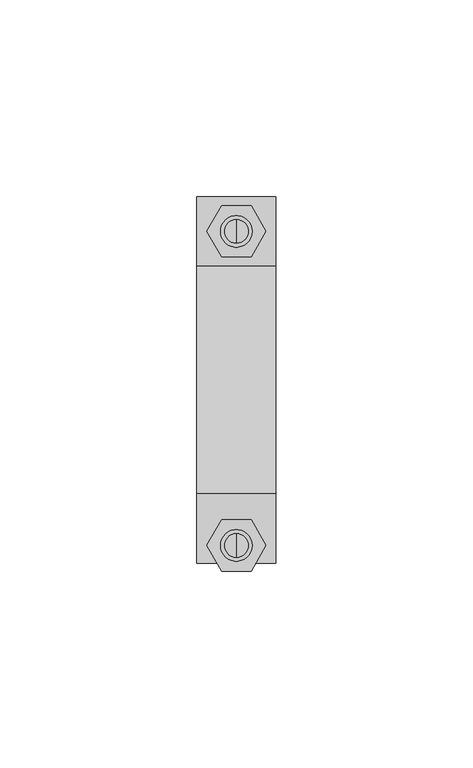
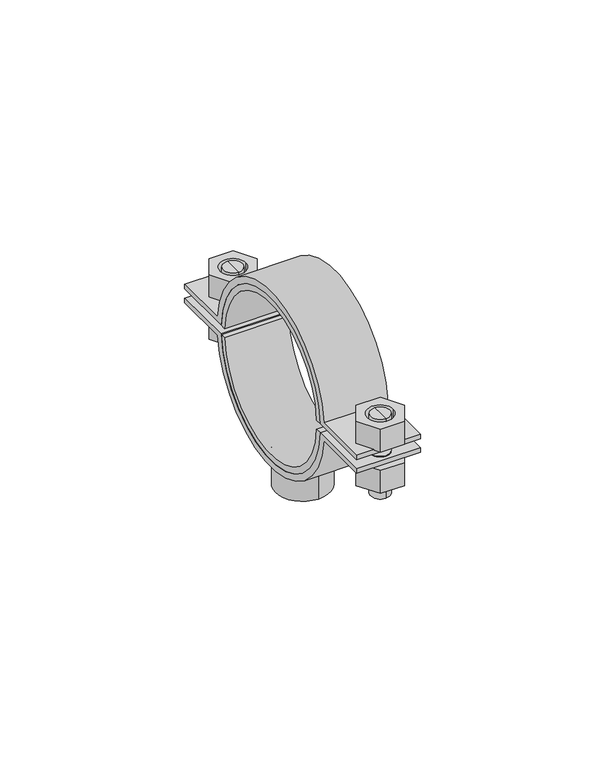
"""IFC4 building model written with IfcOpenShell, lengths in millimetres: valve geometry, Superfix DG2 Clamp Extra : Superfix DG2 Clamp Extra."""

from ifc_helpers import new_model, si_unit, point, frame, frame_2d, origin, origin_2d, place, context, project, spatial, polyline, circle_curve, trimmed, segment, composite_curve, outline, extrude, source, transform, mapped, element, save
from ifc_brep_helpers import plane_surface, cylinder_surface, advanced_brep


def valve_b01fb7c6(model_context):
    return source(origin(), model_context, "Body", "SolidModel", [
        advanced_brep(
        [(0.0, 40.75, 334.4), (0.0, 34.75, 334.4), (0.0, 34.75, 348.5), (0.0, 40.75, 348.5), (0.0, 37.75, 334.4)],
        [
            (0, 1, circle_curve(frame((0.0, 37.75, 334.4), z_axis=(0.0, 0.0, 1.0), x_axis=(0.0, 1.0, 0.0)), 3.0)),
            (1, 2),
            (2, 3, circle_curve(frame((0.0, 37.75, 348.5), z_axis=(0.0, 0.0, -1.0), x_axis=(0.0, 1.0, 0.0)), 3.0)),
            (3, 0),
            (1, 0, circle_curve(frame((0.0, 37.75, 334.4), z_axis=(0.0, 0.0, 1.0), x_axis=(0.0, 1.0, 0.0)), 3.0)),
            (3, 2, circle_curve(frame((0.0, 37.75, 348.5), z_axis=(0.0, 0.0, -1.0), x_axis=(0.0, 1.0, 0.0)), 3.0)),
            (0, 4),
            (4, 1),
        ],
        [
            cylinder_surface(frame((0.0, 37.75, 348.2806094), z_axis=(0.0, 0.0, 1.0), x_axis=(0.0, 1.0, 0.0)), 3.0),
            plane_surface(frame((0.0, 37.75, 334.4), z_axis=(0.0, 0.0, -1.0), x_axis=(0.0, 1.0, 0.0))),
            plane_surface(frame((13.75, -46.5, 348.5), z_axis=(0.0, 0.0, 1.0), x_axis=(-1.0, 0.0, 0.0))),
        ],
        [
            (0, [[1, 2, 3, 4]]),
            (0, [[5, -4, 6, -2]]),
            (1, [[-1, 7, 8]]),
            (1, [[-5, -8, -7]]),
            (2, [[-3, -6]]),
        ],
    ),
        advanced_brep(
        [(0.0, 34.75, 360.6), (0.0, 40.75, 360.6), (0.0, 40.75, 351.5), (0.0, 34.75, 351.5), (0.0, 37.75, 360.6)],
        [
            (0, 1, circle_curve(frame((0.0, 37.75, 360.6), z_axis=(0.0, 0.0, -1.0), x_axis=(0.0, 1.0, 0.0)), 3.0)),
            (1, 2),
            (2, 3, circle_curve(frame((0.0, 37.75, 351.5), z_axis=(0.0, 0.0, 1.0), x_axis=(0.0, 1.0, 0.0)), 3.0)),
            (3, 0),
            (1, 0, circle_curve(frame((0.0, 37.75, 360.6), z_axis=(0.0, 0.0, -1.0), x_axis=(0.0, 1.0, 0.0)), 3.0)),
            (3, 2, circle_curve(frame((0.0, 37.75, 351.5), z_axis=(0.0, 0.0, 1.0), x_axis=(0.0, 1.0, 0.0)), 3.0)),
            (0, 4),
            (4, 1),
        ],
        [
            cylinder_surface(frame((0.0, 37.75, 348.2806094), z_axis=(0.0, 0.0, 1.0), x_axis=(0.0, 1.0, 0.0)), 3.0),
            plane_surface(frame((0.0, 37.75, 360.6), z_axis=(0.0, 0.0, 1.0), x_axis=(0.0, 1.0, 0.0))),
            plane_surface(frame((13.75, 46.5, 351.5), z_axis=(0.0, 0.0, -1.0), x_axis=(-1.0, 0.0, 0.0))),
        ],
        [
            (0, [[1, 2, 3, 4]]),
            (0, [[5, -4, 6, -2]]),
            (1, [[-1, 7, 8]]),
            (1, [[-5, -8, -7]]),
            (2, [[-3, -6]]),
        ],
    ),
        advanced_brep(
        [(0.0, -45.0, 360.6), (0.0, -39.0, 360.6), (0.0, -39.0, 351.5), (0.0, -45.0, 351.5), (0.0, -42.0, 360.6)],
        [
            (0, 1, circle_curve(frame((0.0, -42.0, 360.6), z_axis=(0.0, 0.0, -1.0), x_axis=(0.0, -1.0, 0.0)), 3.0)),
            (1, 2),
            (2, 3, circle_curve(frame((0.0, -42.0, 351.5), z_axis=(0.0, 0.0, 1.0), x_axis=(0.0, -1.0, 0.0)), 3.0)),
            (3, 0),
            (1, 0, circle_curve(frame((0.0, -42.0, 360.6), z_axis=(0.0, 0.0, -1.0), x_axis=(0.0, -1.0, 0.0)), 3.0)),
            (3, 2, circle_curve(frame((0.0, -42.0, 351.5), z_axis=(0.0, 0.0, 1.0), x_axis=(0.0, -1.0, 0.0)), 3.0)),
            (0, 4),
            (4, 1),
        ],
        [
            cylinder_surface(frame((0.0, -42.0, 348.2806094), z_axis=(0.0, 0.0, -1.0), x_axis=(0.0, -1.0, 0.0)), 3.0),
            plane_surface(frame((0.0, -42.0, 360.6), z_axis=(0.0, 0.0, 1.0), x_axis=(0.0, -1.0, 0.0))),
            plane_surface(frame((13.75, 46.5, 351.5), z_axis=(0.0, 0.0, -1.0), x_axis=(-1.0, 0.0, 0.0))),
        ],
        [
            (0, [[1, 2, 3, 4]]),
            (0, [[5, -4, 6, -2]]),
            (1, [[-1, 7, 8]]),
            (1, [[-5, -8, -7]]),
            (2, [[-3, -6]]),
        ],
    ),
        advanced_brep(
        [(0.0, -39.0, 334.4), (0.0, -45.0, 334.4), (0.0, -45.0, 348.5), (0.0, -39.0, 348.5), (0.0, -42.0, 334.4)],
        [
            (0, 1, circle_curve(frame((0.0, -42.0, 334.4), z_axis=(0.0, 0.0, 1.0), x_axis=(0.0, -1.0, 0.0)), 3.0)),
            (1, 2),
            (2, 3, circle_curve(frame((0.0, -42.0, 348.5), z_axis=(0.0, 0.0, -1.0), x_axis=(0.0, -1.0, 0.0)), 3.0)),
            (3, 0),
            (1, 0, circle_curve(frame((0.0, -42.0, 334.4), z_axis=(0.0, 0.0, 1.0), x_axis=(0.0, -1.0, 0.0)), 3.0)),
            (3, 2, circle_curve(frame((0.0, -42.0, 348.5), z_axis=(0.0, 0.0, -1.0), x_axis=(0.0, -1.0, 0.0)), 3.0)),
            (0, 4),
            (4, 1),
        ],
        [
            cylinder_surface(frame((0.0, -42.0, 348.2806094), z_axis=(0.0, 0.0, -1.0), x_axis=(0.0, -1.0, 0.0)), 3.0),
            plane_surface(frame((0.0, -42.0, 334.4), z_axis=(0.0, 0.0, -1.0), x_axis=(0.0, -1.0, 0.0))),
            plane_surface(frame((13.75, -46.5, 348.5), z_axis=(0.0, 0.0, 1.0), x_axis=(-1.0, 0.0, 0.0))),
        ],
        [
            (0, [[1, 2, 3, 4]]),
            (0, [[5, -4, 6, -2]]),
            (1, [[-1, 7, 8]]),
            (1, [[-5, -8, -7]]),
            (2, [[-3, -6]]),
        ],
    ),
        extrude(outline(composite_curve([segment(trimmed(circle_curve(frame_2d((0.0, 350.0)), 27.0), [point((-26.9583011, 348.5))], [point((26.9583011, 348.5))], True, "CARTESIAN"), True, "CONTINUOUS"), segment(polyline([(26.9583011, 348.5), (46.5, 348.5), (46.5, 347.0), (28.8444102, 347.0)]), True, "CONTINUOUS"), segment(trimmed(circle_curve(frame_2d((0.0, 350.0)), 29.0), [point((28.8444102, 347.0))], [point((-28.8444102, 347.0))], False, "CARTESIAN"), True, "CONTINUOUS"), segment(polyline([(-28.8444102, 347.0), (-46.5, 347.0), (-46.5, 348.5), (-26.9583011, 348.5)]), True, "CONTINUOUS")], self_intersect=False)), frame((-10.0, 0.0, 0.0), z_axis=(1.0, 0.0, 0.0), x_axis=(0.0, 1.0, 0.0)), (0.0, 0.0, 1.0), 20.0),
        extrude(outline(composite_curve([segment(trimmed(circle_curve(frame_2d((0.0, 350.0)), 27.0), [point((26.9583011, 351.5))], [point((-26.9583011, 351.5))], True, "CARTESIAN"), True, "CONTINUOUS"), segment(polyline([(-26.9583011, 351.5), (-46.5, 351.5), (-46.5, 353.0), (-28.8444102, 353.0)]), True, "CONTINUOUS"), segment(trimmed(circle_curve(frame_2d((0.0, 350.0)), 29.0), [point((-28.8444102, 353.0))], [point((28.8444102, 353.0))], False, "CARTESIAN"), True, "CONTINUOUS"), segment(polyline([(28.8444102, 353.0), (46.5, 353.0), (46.5, 351.5), (26.9583011, 351.5)]), True, "CONTINUOUS")], self_intersect=False)), frame((-10.0, 0.0, 0.0), z_axis=(1.0, 0.0, 0.0), x_axis=(0.0, 1.0, 0.0)), (0.0, 0.0, 1.0), 20.0),
        extrude(outline(polyline([(7.5055535, -42.0), (3.7527767, -48.5), (-3.7527767, -48.5), (-7.5055535, -42.0), (-3.7527767, -35.5), (3.7527767, -35.5), (7.5055535, -42.0)]), holes=[composite_curve([segment(trimmed(circle_curve(frame_2d((0.0, -42.0)), 4.0), [point((4.0, -42.0))], [point((-4.0, -42.0))], True, "CARTESIAN"), True, "CONTINUOUS"), segment(trimmed(circle_curve(frame_2d((0.0, -42.0)), 4.0), [point((-4.0, -42.0))], [point((4.0, -42.0))], True, "CARTESIAN"), True, "CONTINUOUS")], self_intersect=False)]), frame((0.0, 0.0, 353.0), z_axis=(0.0, 0.0, 1.0), x_axis=(1.0, 0.0, 0.0)), (0.0, 0.0, 1.0), 7.6),
        extrude(outline(polyline([(7.5055535, 37.75), (3.7527767, 31.25), (-3.7527767, 31.25), (-7.5055535, 37.75), (-3.7527767, 44.25), (3.7527767, 44.25), (7.5055535, 37.75)]), holes=[composite_curve([segment(trimmed(circle_curve(frame_2d((0.0, 37.75)), 4.0), [point((4.0, 37.75))], [point((-4.0, 37.75))], True, "CARTESIAN"), True, "CONTINUOUS"), segment(trimmed(circle_curve(frame_2d((0.0, 37.75)), 4.0), [point((-4.0, 37.75))], [point((4.0, 37.75))], True, "CARTESIAN"), True, "CONTINUOUS")], self_intersect=False)]), frame((0.0, 0.0, 353.0), z_axis=(0.0, 0.0, 1.0), x_axis=(1.0, 0.0, 0.0)), (0.0, 0.0, 1.0), 7.6),
        extrude(outline(polyline([(7.5055535, -42.0), (3.7527767, -48.5), (-3.7527767, -48.5), (-7.5055535, -42.0), (-3.7527767, -35.5), (3.7527767, -35.5), (7.5055535, -42.0)]), holes=[composite_curve([segment(trimmed(circle_curve(frame_2d((0.0, -42.0)), 4.0), [point((4.0, -42.0))], [point((-4.0, -42.0))], True, "CARTESIAN"), True, "CONTINUOUS"), segment(trimmed(circle_curve(frame_2d((0.0, -42.0)), 4.0), [point((-4.0, -42.0))], [point((4.0, -42.0))], True, "CARTESIAN"), True, "CONTINUOUS")], self_intersect=False)]), frame((0.0, 0.0, 339.4), z_axis=(0.0, 0.0, 1.0), x_axis=(1.0, 0.0, 0.0)), (0.0, 0.0, 1.0), 7.6),
        extrude(outline(polyline([(7.5055535, 37.75), (3.7527767, 31.25), (-3.7527767, 31.25), (-7.5055535, 37.75), (-3.7527767, 44.25), (3.7527767, 44.25), (7.5055535, 37.75)]), holes=[composite_curve([segment(trimmed(circle_curve(frame_2d((0.0, 37.75)), 4.0), [point((4.0, 37.75))], [point((-4.0, 37.75))], True, "CARTESIAN"), True, "CONTINUOUS"), segment(trimmed(circle_curve(frame_2d((0.0, 37.75)), 4.0), [point((-4.0, 37.75))], [point((4.0, 37.75))], True, "CARTESIAN"), True, "CONTINUOUS")], self_intersect=False)]), frame((0.0, 0.0, 339.4), z_axis=(0.0, 0.0, 1.0), x_axis=(1.0, 0.0, 0.0)), (0.0, 0.0, 1.0), 7.6),
        extrude(outline(composite_curve([segment(trimmed(circle_curve(origin_2d(), 8.5), [point((0.0, 8.5))], [point((0.0, -8.5))], False, "CARTESIAN"), True, "CONTINUOUS"), segment(trimmed(circle_curve(origin_2d(), 8.5), [point((0.0, -8.5))], [point((0.0, 8.5))], False, "CARTESIAN"), True, "CONTINUOUS")], self_intersect=False), holes=[composite_curve([segment(trimmed(circle_curve(origin_2d(), 5.0), [point((0.0, 5.0))], [point((0.0, -5.0))], True, "CARTESIAN"), True, "CONTINUOUS"), segment(trimmed(circle_curve(origin_2d(), 5.0), [point((0.0, -5.0))], [point((0.0, 5.0))], True, "CARTESIAN"), True, "CONTINUOUS")], self_intersect=False)]), frame((0.0, 0.0, 312.0), z_axis=(0.0, 0.0, 1.0), x_axis=(1.0, 0.0, 0.0)), (0.0, 0.0, 1.0), 11.5),
        extrude(outline(composite_curve([segment(trimmed(circle_curve(frame_2d((0.0, 350.0)), 25.0), [point((24.9549594, 351.5))], [point((-24.9549594, 351.5))], True, "CARTESIAN"), True, "CONTINUOUS"), segment(polyline([(-24.9549594, 351.5), (-26.9583011, 351.5)]), True, "CONTINUOUS"), segment(trimmed(circle_curve(frame_2d((0.0, 350.0)), 27.0), [point((-26.9583011, 351.5))], [point((26.9583011, 351.5))], False, "CARTESIAN"), True, "CONTINUOUS"), segment(polyline([(26.9583011, 351.5), (24.9549594, 351.5)]), True, "CONTINUOUS")], self_intersect=False)), frame((-10.0, 0.0, 0.0), z_axis=(1.0, 0.0, 0.0), x_axis=(0.0, 1.0, 0.0)), (0.0, 0.0, 1.0), 20.0),
        extrude(outline(composite_curve([segment(polyline([(24.9549594, 348.5), (26.9583011, 348.5)]), True, "CONTINUOUS"), segment(trimmed(circle_curve(frame_2d((0.0, 350.0)), 27.0), [point((26.9583011, 348.5))], [point((-26.9583011, 348.5))], False, "CARTESIAN"), True, "CONTINUOUS"), segment(polyline([(-26.9583011, 348.5), (-24.9549594, 348.5)]), True, "CONTINUOUS"), segment(trimmed(circle_curve(frame_2d((0.0, 350.0)), 25.0), [point((-24.9549594, 348.5))], [point((24.9549594, 348.5))], True, "CARTESIAN"), True, "CONTINUOUS")], self_intersect=False)), frame((-10.0, 0.0, 0.0), z_axis=(1.0, 0.0, 0.0), x_axis=(0.0, 1.0, 0.0)), (0.0, 0.0, 1.0), 20.0),
    ])


if __name__ == "__main__":
    model = new_model("IFC4")
    model_context = context("Model", 3, world=origin())
    ifc_project = project(units=[si_unit("LENGTHUNIT", "METRE", prefix="MILLI")], contexts=[model_context])
    site = spatial("IfcSite", under=ifc_project)
    building = spatial("IfcBuilding", under=site)
    placement = place(None, origin())
    valve_shape = valve_b01fb7c6(model_context)
    element("IfcValve", 1, ObjectType="Superfix DG2 Clamp Extra : Superfix DG2 Clamp Extra", at=placement, inside=building, context=model_context, shape_type="MappedRepresentation", body=[
        mapped(valve_shape, transform((0.0, 0.0, 0.0), x_axis=(1.0, 0.0, 0.0), y_axis=(0.0, 1.0, 0.0), z_axis=(0.0, 0.0, 1.0))),
    ])
    save(model, "model.ifc")
